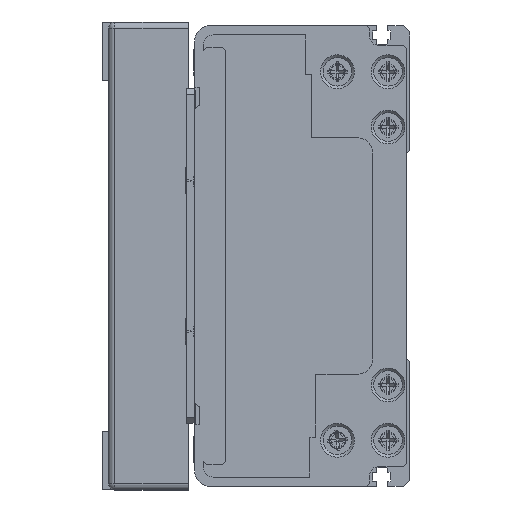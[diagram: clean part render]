
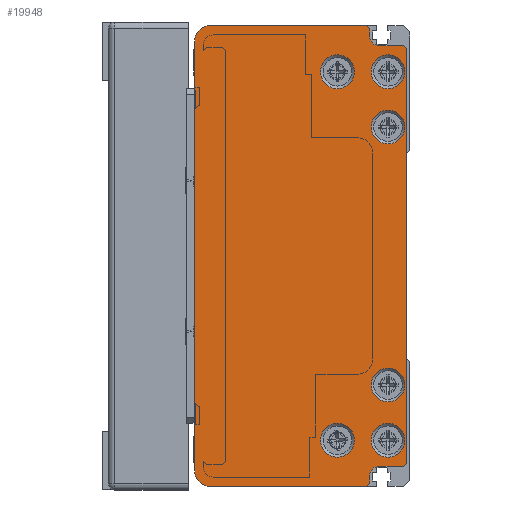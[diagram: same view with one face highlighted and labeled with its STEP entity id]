
A CAD part, left-side view. The second image highlights one B-rep face of the part: STEP entity #19948.
In plain terms, the highlighted planar face has unit normal (-1, 0, 0) as drawn and (0, 0, -1) by its records, which use the part's own axes.
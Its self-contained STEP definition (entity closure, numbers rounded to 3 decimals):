
#934=LINE('',#28882,#2599);
#935=LINE('',#28886,#2600);
#936=LINE('',#28888,#2601);
#937=LINE('',#28890,#2602);
#938=LINE('',#28894,#2603);
#939=LINE('',#28896,#2604);
#940=LINE('',#28898,#2605);
#941=LINE('',#28900,#2606);
#942=LINE('',#28902,#2607);
#943=LINE('',#28906,#2608);
#944=LINE('',#28908,#2609);
#945=LINE('',#28910,#2610);
#2599=VECTOR('',#23459,140.);
#2600=VECTOR('',#23462,51.);
#2601=VECTOR('',#23463,1.414);
#2602=VECTOR('',#23464,2.5);
#2603=VECTOR('',#23467,8.);
#2604=VECTOR('',#23468,1.414);
#2605=VECTOR('',#23469,135.);
#2606=VECTOR('',#23470,1.414);
#2607=VECTOR('',#23471,8.);
#2608=VECTOR('',#23474,2.5);
#2609=VECTOR('',#23475,1.414);
#2610=VECTOR('',#23476,51.);
#4217=PLANE('',#21330);
#4850=FACE_BOUND('',#6720,.T.);
#4851=FACE_BOUND('',#6721,.T.);
#4852=FACE_BOUND('',#6722,.T.);
#4853=FACE_BOUND('',#6723,.T.);
#4854=FACE_BOUND('',#6724,.T.);
#4855=FACE_BOUND('',#6725,.T.);
#5425=FACE_OUTER_BOUND('',#6719,.T.);
#6719=EDGE_LOOP('',(#14019,#14020,#14021,#14022,#14023,#14024,#14025,#14026,
#14027,#14028,#14029,#14030,#14031,#14032,#14033,#14034));
#6720=EDGE_LOOP('',(#14035));
#6721=EDGE_LOOP('',(#14036));
#6722=EDGE_LOOP('',(#14037));
#6723=EDGE_LOOP('',(#14038));
#6724=EDGE_LOOP('',(#14039));
#6725=EDGE_LOOP('',(#14040));
#8243=CIRCLE('',#21331,5.);
#8244=CIRCLE('',#21332,3.);
#8245=CIRCLE('',#21333,3.);
#8246=CIRCLE('',#21334,5.);
#8247=CIRCLE('',#21335,5.5);
#8248=CIRCLE('',#21336,5.5);
#8249=CIRCLE('',#21337,5.5);
#8250=CIRCLE('',#21338,5.5);
#8251=CIRCLE('',#21339,5.5);
#8252=CIRCLE('',#21340,5.5);
#8943=VERTEX_POINT('',#28880);
#8944=VERTEX_POINT('',#28881);
#8945=VERTEX_POINT('',#28883);
#8946=VERTEX_POINT('',#28885);
#8947=VERTEX_POINT('',#28887);
#8948=VERTEX_POINT('',#28889);
#8949=VERTEX_POINT('',#28891);
#8950=VERTEX_POINT('',#28893);
#8951=VERTEX_POINT('',#28895);
#8952=VERTEX_POINT('',#28897);
#8953=VERTEX_POINT('',#28899);
#8954=VERTEX_POINT('',#28901);
#8955=VERTEX_POINT('',#28903);
#8956=VERTEX_POINT('',#28905);
#8957=VERTEX_POINT('',#28907);
#8958=VERTEX_POINT('',#28909);
#8959=VERTEX_POINT('',#28912);
#8960=VERTEX_POINT('',#28914);
#8961=VERTEX_POINT('',#28916);
#8962=VERTEX_POINT('',#28918);
#8963=VERTEX_POINT('',#28920);
#8964=VERTEX_POINT('',#28922);
#10987=EDGE_CURVE('',#8943,#8944,#934,.T.);
#10988=EDGE_CURVE('',#8944,#8945,#8243,.T.);
#10989=EDGE_CURVE('',#8945,#8946,#935,.T.);
#10990=EDGE_CURVE('',#8946,#8947,#936,.T.);
#10991=EDGE_CURVE('',#8947,#8948,#937,.T.);
#10992=EDGE_CURVE('',#8948,#8949,#8244,.T.);
#10993=EDGE_CURVE('',#8949,#8950,#938,.T.);
#10994=EDGE_CURVE('',#8950,#8951,#939,.T.);
#10995=EDGE_CURVE('',#8951,#8952,#940,.T.);
#10996=EDGE_CURVE('',#8952,#8953,#941,.T.);
#10997=EDGE_CURVE('',#8953,#8954,#942,.T.);
#10998=EDGE_CURVE('',#8954,#8955,#8245,.T.);
#10999=EDGE_CURVE('',#8955,#8956,#943,.T.);
#11000=EDGE_CURVE('',#8956,#8957,#944,.T.);
#11001=EDGE_CURVE('',#8957,#8958,#945,.T.);
#11002=EDGE_CURVE('',#8958,#8943,#8246,.T.);
#11003=EDGE_CURVE('',#8959,#8959,#8247,.T.);
#11004=EDGE_CURVE('',#8960,#8960,#8248,.T.);
#11005=EDGE_CURVE('',#8961,#8961,#8249,.T.);
#11006=EDGE_CURVE('',#8962,#8962,#8250,.T.);
#11007=EDGE_CURVE('',#8963,#8963,#8251,.T.);
#11008=EDGE_CURVE('',#8964,#8964,#8252,.T.);
#14019=ORIENTED_EDGE('',*,*,#10987,.T.);
#14020=ORIENTED_EDGE('',*,*,#10988,.T.);
#14021=ORIENTED_EDGE('',*,*,#10989,.T.);
#14022=ORIENTED_EDGE('',*,*,#10990,.T.);
#14023=ORIENTED_EDGE('',*,*,#10991,.T.);
#14024=ORIENTED_EDGE('',*,*,#10992,.T.);
#14025=ORIENTED_EDGE('',*,*,#10993,.T.);
#14026=ORIENTED_EDGE('',*,*,#10994,.T.);
#14027=ORIENTED_EDGE('',*,*,#10995,.T.);
#14028=ORIENTED_EDGE('',*,*,#10996,.T.);
#14029=ORIENTED_EDGE('',*,*,#10997,.T.);
#14030=ORIENTED_EDGE('',*,*,#10998,.T.);
#14031=ORIENTED_EDGE('',*,*,#10999,.T.);
#14032=ORIENTED_EDGE('',*,*,#11000,.T.);
#14033=ORIENTED_EDGE('',*,*,#11001,.T.);
#14034=ORIENTED_EDGE('',*,*,#11002,.T.);
#14035=ORIENTED_EDGE('',*,*,#11003,.T.);
#14036=ORIENTED_EDGE('',*,*,#11004,.T.);
#14037=ORIENTED_EDGE('',*,*,#11005,.T.);
#14038=ORIENTED_EDGE('',*,*,#11006,.T.);
#14039=ORIENTED_EDGE('',*,*,#11007,.T.);
#14040=ORIENTED_EDGE('',*,*,#11008,.T.);
#19948=ADVANCED_FACE('',(#5425,#4850,#4851,#4852,#4853,#4854,#4855),#4217,
 .F.);
#21330=AXIS2_PLACEMENT_3D('',#28879,#23457,#23458);
#21331=AXIS2_PLACEMENT_3D('',#28884,#23460,#23461);
#21332=AXIS2_PLACEMENT_3D('',#28892,#23465,#23466);
#21333=AXIS2_PLACEMENT_3D('',#28904,#23472,#23473);
#21334=AXIS2_PLACEMENT_3D('',#28911,#23477,#23478);
#21335=AXIS2_PLACEMENT_3D('',#28913,#23479,#23480);
#21336=AXIS2_PLACEMENT_3D('',#28915,#23481,#23482);
#21337=AXIS2_PLACEMENT_3D('',#28917,#23483,#23484);
#21338=AXIS2_PLACEMENT_3D('',#28919,#23485,#23486);
#21339=AXIS2_PLACEMENT_3D('',#28921,#23487,#23488);
#21340=AXIS2_PLACEMENT_3D('',#28923,#23489,#23490);
#23457=DIRECTION('center_axis',(0.,0.,
1.));
#23458=DIRECTION('ref_axis',(1.,0.,0.));
#23459=DIRECTION('',(1.,0.,0.));
#23460=DIRECTION('center_axis',(0.,0.,
-1.));
#23461=DIRECTION('ref_axis',(-1.,0.,0.));
#23462=DIRECTION('',(0.,-1.,0.));
#23463=DIRECTION('',(-0.707,-0.707,0.));
#23464=DIRECTION('',(-1.,0.,0.));
#23465=DIRECTION('center_axis',(0.,0.,
1.));
#23466=DIRECTION('ref_axis',(0.,1.,0.));
#23467=DIRECTION('',(0.,-1.,0.));
#23468=DIRECTION('',(-0.707,-0.707,0.));
#23469=DIRECTION('',(-1.,0.,0.));
#23470=DIRECTION('',(-0.707,0.707,0.));
#23471=DIRECTION('',(0.,1.,0.));
#23472=DIRECTION('center_axis',(0.,0.,
1.));
#23473=DIRECTION('ref_axis',(1.,0.,0.));
#23474=DIRECTION('',(-1.,0.,0.));
#23475=DIRECTION('',(-0.707,0.707,0.));
#23476=DIRECTION('',(0.,1.,0.));
#23477=DIRECTION('center_axis',(0.,0.,
-1.));
#23478=DIRECTION('ref_axis',(0.,-1.,0.));
#23479=DIRECTION('center_axis',(0.,0.,
1.));
#23480=DIRECTION('ref_axis',(-1.,0.,0.));
#23481=DIRECTION('center_axis',(0.,0.,
1.));
#23482=DIRECTION('ref_axis',(-1.,0.,0.));
#23483=DIRECTION('center_axis',(0.,0.,
1.));
#23484=DIRECTION('ref_axis',(-1.,0.,0.));
#23485=DIRECTION('center_axis',(0.,0.,
1.));
#23486=DIRECTION('ref_axis',(-1.,0.,0.));
#23487=DIRECTION('center_axis',(0.,0.,
1.));
#23488=DIRECTION('ref_axis',(-1.,0.,0.));
#23489=DIRECTION('center_axis',(0.,0.,
1.));
#23490=DIRECTION('ref_axis',(-1.,0.,0.));
#28879=CARTESIAN_POINT('Origin',(0.25,38.047,-1519.));
#28880=CARTESIAN_POINT('',(-69.75,72.25,-1519.));
#28881=CARTESIAN_POINT('',(70.25,72.25,-1519.));
#28882=CARTESIAN_POINT('',(-69.75,72.25,-1519.));
#28883=CARTESIAN_POINT('',(75.25,67.25,-1519.));
#28884=CARTESIAN_POINT('Origin',(70.25,67.25,-1519.));
#28885=CARTESIAN_POINT('',(75.25,16.25,-1519.));
#28886=CARTESIAN_POINT('',(75.25,67.25,-1519.));
#28887=CARTESIAN_POINT('',(74.25,15.25,-1519.));
#28888=CARTESIAN_POINT('',(75.25,16.25,-1519.));
#28889=CARTESIAN_POINT('',(71.75,15.25,-1519.));
#28890=CARTESIAN_POINT('',(74.25,15.25,-1519.));
#28891=CARTESIAN_POINT('',(68.75,12.25,-1519.));
#28892=CARTESIAN_POINT('Origin',(71.75,12.25,-1519.));
#28893=CARTESIAN_POINT('',(68.75,4.25,-1519.));
#28894=CARTESIAN_POINT('',(68.75,12.25,-1519.));
#28895=CARTESIAN_POINT('',(67.75,3.25,-1519.));
#28896=CARTESIAN_POINT('',(68.75,4.25,-1519.));
#28897=CARTESIAN_POINT('',(-67.25,3.25,-1519.));
#28898=CARTESIAN_POINT('',(67.75,3.25,-1519.));
#28899=CARTESIAN_POINT('',(-68.25,4.25,-1519.));
#28900=CARTESIAN_POINT('',(-67.25,3.25,-1519.));
#28901=CARTESIAN_POINT('',(-68.25,12.25,-1519.));
#28902=CARTESIAN_POINT('',(-68.25,4.25,-1519.));
#28903=CARTESIAN_POINT('',(-71.25,15.25,-1519.));
#28904=CARTESIAN_POINT('Origin',(-71.25,12.25,-1519.));
#28905=CARTESIAN_POINT('',(-73.75,15.25,-1519.));
#28906=CARTESIAN_POINT('',(-71.25,15.25,-1519.));
#28907=CARTESIAN_POINT('',(-74.75,16.25,-1519.));
#28908=CARTESIAN_POINT('',(-73.75,15.25,-1519.));
#28909=CARTESIAN_POINT('',(-74.75,67.25,-1519.));
#28910=CARTESIAN_POINT('',(-74.75,16.25,-1519.));
#28911=CARTESIAN_POINT('Origin',(-69.75,67.25,-1519.));
#28912=CARTESIAN_POINT('',(-47.25,9.25,-1519.));
#28913=CARTESIAN_POINT('Origin',(-41.75,9.25,-1519.));
#28914=CARTESIAN_POINT('',(36.75,9.25,-1519.));
#28915=CARTESIAN_POINT('Origin',(42.25,9.25,-1519.));
#28916=CARTESIAN_POINT('',(-65.25,25.75,-1519.));
#28917=CARTESIAN_POINT('Origin',(-59.75,25.75,-1519.));
#28918=CARTESIAN_POINT('',(54.75,25.75,-1519.));
#28919=CARTESIAN_POINT('Origin',(60.25,25.75,-1519.));
#28920=CARTESIAN_POINT('',(-65.25,9.25,-1519.));
#28921=CARTESIAN_POINT('Origin',(-59.75,9.25,-1519.));
#28922=CARTESIAN_POINT('',(54.75,9.25,-1519.));
#28923=CARTESIAN_POINT('Origin',(60.25,9.25,-1519.));
